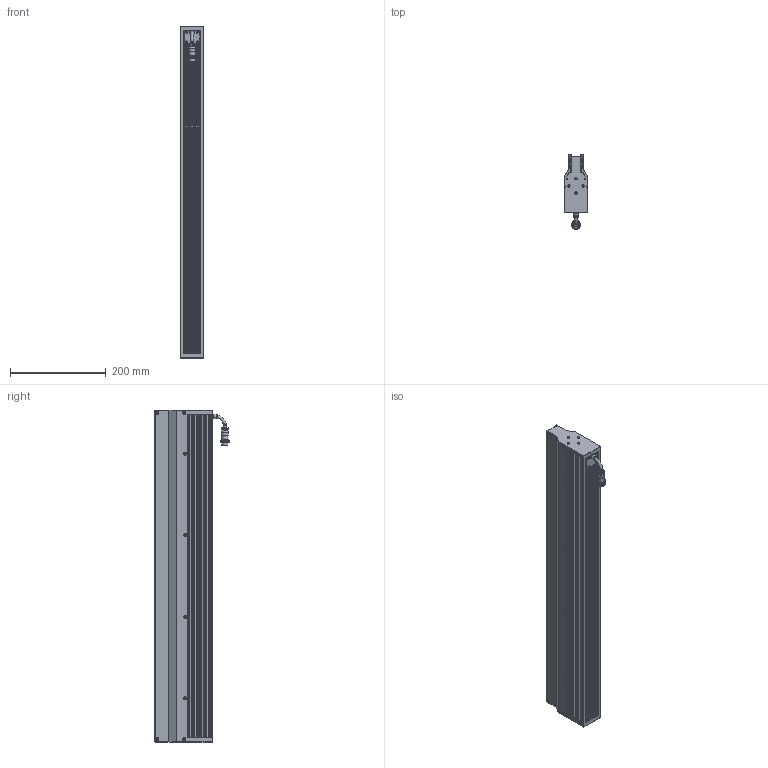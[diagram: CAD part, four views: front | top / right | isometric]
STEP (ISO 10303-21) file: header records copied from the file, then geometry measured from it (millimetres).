
FILE_DESCRIPTION (( 'STEP AP203' ), '1' );
FILE_NAME ('OPT-LSNL692-W-V1.1尨砩芞.STEP', '2025-02-18T03:36:57', ( '' ), ( '' ), 'SwSTEP 2.0', 'SolidWorks 2016', '' );
FILE_SCHEMA (( 'CONFIG_CONTROL_DESIGN' ));
Products named in the file (1): OPT-LSNL692-W-V1.1尨砩芞
Bounding box: 50.01 x 155.15 x 692 mm (x, y, z)
Volume: 2497492.5 mm3; surface area: 826187.1 mm2
Topology: 5 solids, 10 shells, 3606 faces, 8205 edges, 4629 vertices
Faces by surface type: bspline 2059, cylinder 757, plane 743, cone 39, torus 8
Full cylindrical faces by diameter (mm): 0.95 x6, 1.1 x2, 1.4 x2, 2 x4, 2.5 x10, 3 x12, 3.4 x16, 3.5 x4, 5 x8, 6.4 x3, 7.5 x1, 8.6 x1, 9.3 x1, 9.8 x1, 10 x1, 13.2 x1, 14 x1, 16.1 x1
Entity records: 125924 total; most frequent: CARTESIAN_POINT 64568, ORIENTED_EDGE 16042, EDGE_CURVE 8021, DIRECTION 5958, B_SPLINE_CURVE_WITH_KNOTS 5578, VERTEX_POINT 4571, EDGE_LOOP 3798, FACE_OUTER_BOUND 3689
